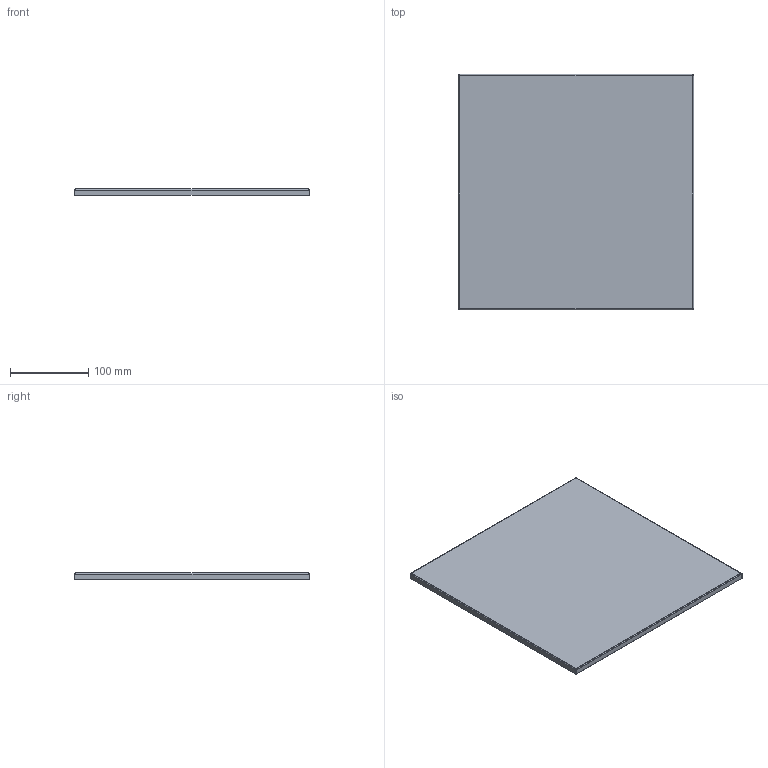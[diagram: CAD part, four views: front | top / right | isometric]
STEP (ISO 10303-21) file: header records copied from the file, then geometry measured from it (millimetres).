
FILE_DESCRIPTION(/* description */ ('-'),/* implementation_level */ '2;1');
FILE_NAME(/* name */ 'Decor_300x300.step',/* time_stamp */ '2025-01-27T18:45:26+01:00',/* author */ ('Jarosław Sierota'),/* organization */ ('JS'),/* preprocessor_version */ 'ST-DEVELOPER v20',/* originating_system */ 'Autodesk Inventor 2025',/* authorisation */ 'Jarosław Sierota');
FILE_SCHEMA (('AUTOMOTIVE_DESIGN { 1 0 10303 214 3 1 1 }'));
Length unit declared in the file: millimetre
Products named in the file (1): Decor_100x100
Bounding box: 300 x 300 x 8 mm (x, y, z)
Volume: 55978.6 mm3; surface area: 197138.1 mm2
Topology: 1 solids, 1 shells, 38 faces, 76 edges, 40 vertices
Faces by surface type: plane 22, bspline 8, cylinder 8
Entity records: 1399 total; most frequent: CARTESIAN_POINT 643, ORIENTED_EDGE 152, DIRECTION 122, EDGE_CURVE 76, LINE 60, VECTOR 60, VERTEX_POINT 40, FACE_OUTER_BOUND 38
